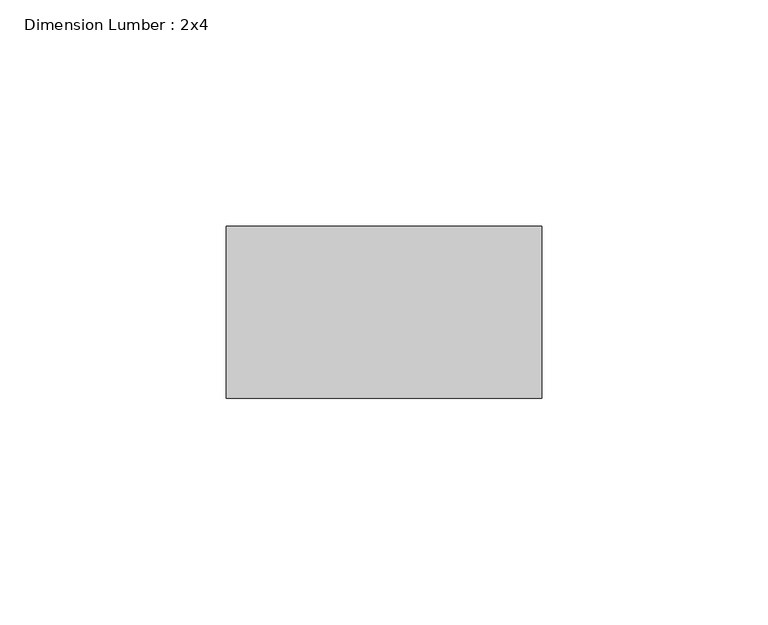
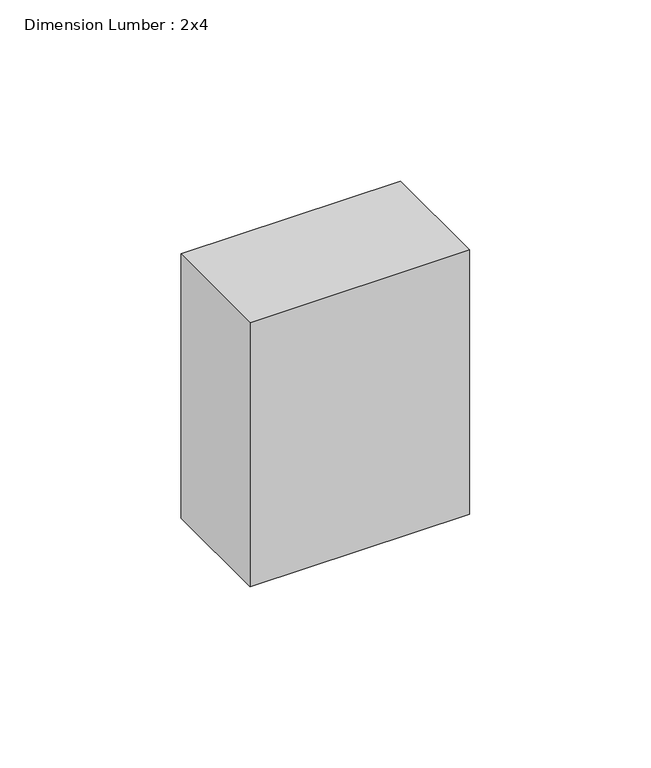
"""IFC4 building model written with IfcOpenShell, lengths in millimetres: beam geometry, Dimension Lumber : 2x4."""

from ifc_helpers import new_model, si_unit, frame, origin, place, context, project, spatial, polyline, outline, extrude, source, transform, mapped, element, save


def dimension_lumber_2x4_69613563(model_context):
    return source(origin(), model_context, "Body", "SweptSolid", [
        extrude(outline(polyline([(34.925, 19.05), (34.925, -19.05), (-34.925, -19.05), (-34.925, 19.05), (34.925, 19.05)])), frame((0.0, 0.0, -44.45), z_axis=(0.0, 0.0, 1.0), x_axis=(1.0, 0.0, 0.0)), (0.0, 0.0, 1.0), 88.9),
    ])


if __name__ == "__main__":
    model = new_model("IFC4")
    model_context = context("Model", 3, world=origin())
    ifc_project = project(units=[si_unit("LENGTHUNIT", "METRE", prefix="MILLI")], contexts=[model_context])
    site = spatial("IfcSite", under=ifc_project)
    building = spatial("IfcBuilding", under=site)
    placement = place(None, origin())
    dimension_lumber_2x4_shape = dimension_lumber_2x4_69613563(model_context)
    element("IfcBeam", 1, ObjectType="Dimension Lumber : 2x4", at=placement, inside=building, context=model_context, shape_type="MappedRepresentation", body=[
        mapped(dimension_lumber_2x4_shape, transform((0.0, 0.0, 0.0), x_axis=(1.0, 0.0, 0.0), y_axis=(0.0, 1.0, 0.0), z_axis=(0.0, 0.0, 1.0))),
    ])
    save(model, "model.ifc")
